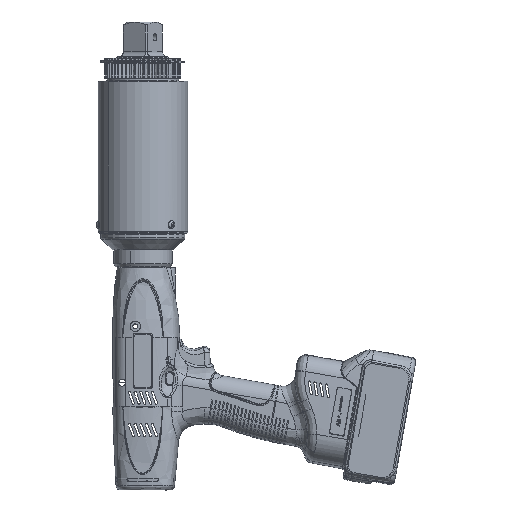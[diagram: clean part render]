
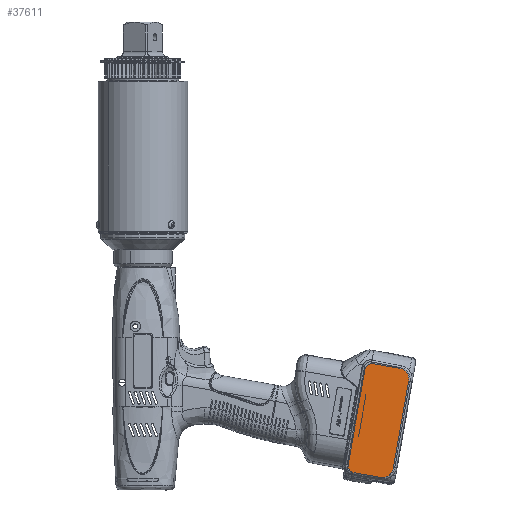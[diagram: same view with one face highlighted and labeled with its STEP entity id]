
A CAD part, left-side view. The second image highlights one B-rep face of the part: STEP entity #37611.
In plain terms, the highlighted planar face has unit normal (-1, 0, 0).
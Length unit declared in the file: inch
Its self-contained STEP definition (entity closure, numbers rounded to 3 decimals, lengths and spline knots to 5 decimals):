
#5292 = EDGE_CURVE ( 'NONE', #86079, #28342, #52400, .T. ) ;
#5631 = ORIENTED_EDGE ( 'NONE', *, *, #35258, .T. ) ;
#6108 = CARTESIAN_POINT ( 'NONE',  ( -1.48, -8.76218, -3.72293 ) ) ;
#6435 = DIRECTION ( 'NONE',  ( 0., -0.174, 0.985 ) ) ;
#8315 = AXIS2_PLACEMENT_3D ( 'NONE', #205731, #42220, #6435 ) ;
#10279 = DIRECTION ( 'NONE',  ( -1., 0., 0. ) ) ;
#11564 = DIRECTION ( 'NONE',  ( 0., 0.174, -0.985 ) ) ;
#11878 = EDGE_CURVE ( 'NONE', #86056, #48771, #204309, .T. ) ;
#13908 = VERTEX_POINT ( 'NONE', #19643 ) ;
#19643 = CARTESIAN_POINT ( 'NONE',  ( -1.48, -7.20979, -7.2865 ) ) ;
#19907 = DIRECTION ( 'NONE',  ( 0., -0.174, 0.985 ) ) ;
#24184 = ORIENTED_EDGE ( 'NONE', *, *, #92044, .T. ) ;
#28342 = VERTEX_POINT ( 'NONE', #202990 ) ;
#28716 = CARTESIAN_POINT ( 'NONE',  ( -1.48, -8.17108, -7.07522 ) ) ;
#30016 = EDGE_CURVE ( 'NONE', #200419, #13908, #53158, .T. ) ;
#32656 = CIRCLE ( 'NONE', #8315, 0.375 ) ;
#33382 = EDGE_LOOP ( 'NONE', ( #202807, #120337, #113052, #119074, #24184, #5631, #152180, #64182 ) ) ;
#35197 = AXIS2_PLACEMENT_3D ( 'NONE', #189921, #61072, #209389 ) ;
#35258 = EDGE_CURVE ( 'NONE', #89031, #200419, #76641, .T. ) ;
#36532 = DIRECTION ( 'NONE',  ( 0., 0.985, 0.174 ) ) ;
#36997 = VECTOR ( 'NONE', #36532, 39.37008 ) ;
#37611 = ADVANCED_FACE ( 'NONE', ( #113192 ), #48232, .F. ) ;
#41191 = EDGE_CURVE ( 'NONE', #172706, #86056, #32656, .T. ) ;
#42220 = DIRECTION ( 'NONE',  ( -1., 0., 0. ) ) ;
#43931 = CARTESIAN_POINT ( 'NONE',  ( -1.48, -7.82259, -3.81111 ) ) ;
#47811 = DIRECTION ( 'NONE',  ( 0., 0.174, -0.985 ) ) ;
#48232 = PLANE ( 'NONE',  #167248 ) ;
#48366 = CARTESIAN_POINT ( 'NONE',  ( -1.48, -7.86601, -3.56491 ) ) ;
#48771 = VERTEX_POINT ( 'NONE', #48366 ) ;
#52400 = CIRCLE ( 'NONE', #35197, 0.375 ) ;
#53158 = CIRCLE ( 'NONE', #198415, 0.25 ) ;
#59132 = CARTESIAN_POINT ( 'NONE',  ( -1.48, -7.57639, -3.7677 ) ) ;
#61072 = DIRECTION ( 'NONE',  ( -1., 0., 0. ) ) ;
#64079 = DIRECTION ( 'NONE',  ( -1., 0., 0. ) ) ;
#64182 = ORIENTED_EDGE ( 'NONE', *, *, #132550, .T. ) ;
#75580 = CARTESIAN_POINT ( 'NONE',  ( -1.48, -7.007, -6.99689 ) ) ;
#76448 = DIRECTION ( 'NONE',  ( 0., -0.174, 0.985 ) ) ;
#76641 = LINE ( 'NONE', #75580, #170145 ) ;
#83400 = CARTESIAN_POINT ( 'NONE',  ( -1.48, -8.10597, -7.44452 ) ) ;
#86056 = VERTEX_POINT ( 'NONE', #114785 ) ;
#86079 = VERTEX_POINT ( 'NONE', #83400 ) ;
#89031 = VERTEX_POINT ( 'NONE', #59132 ) ;
#91291 = LINE ( 'NONE', #207066, #105643 ) ;
#92044 = EDGE_CURVE ( 'NONE', #48771, #89031, #194547, .T. ) ;
#95570 = DIRECTION ( 'NONE',  ( 0., -0.985, -0.174 ) ) ;
#97045 = DIRECTION ( 'NONE',  ( 1., 0., 0. ) ) ;
#100514 = CARTESIAN_POINT ( 'NONE',  ( -1.48, -9.06637, -4.15735 ) ) ;
#101952 = CARTESIAN_POINT ( 'NONE',  ( -1.48, -7.2532, -7.0403 ) ) ;
#105643 = VECTOR ( 'NONE', #95570, 39.37008 ) ;
#113052 = ORIENTED_EDGE ( 'NONE', *, *, #41191, .T. ) ;
#113192 = FACE_OUTER_BOUND ( 'NONE', #33382, .T. ) ;
#114785 = CARTESIAN_POINT ( 'NONE',  ( -1.48, -8.76218, -3.72293 ) ) ;
#118480 = LINE ( 'NONE', #168221, #202964 ) ;
#119074 = ORIENTED_EDGE ( 'NONE', *, *, #11878, .T. ) ;
#120337 = ORIENTED_EDGE ( 'NONE', *, *, #134662, .T. ) ;
#132550 = EDGE_CURVE ( 'NONE', #13908, #86079, #91291, .T. ) ;
#134662 = EDGE_CURVE ( 'NONE', #28342, #172706, #118480, .T. ) ;
#144532 = DIRECTION ( 'NONE',  ( 0., 0.174, -0.985 ) ) ;
#152180 = ORIENTED_EDGE ( 'NONE', *, *, #30016, .T. ) ;
#167248 = AXIS2_PLACEMENT_3D ( 'NONE', #28716, #97045, #144532 ) ;
#168221 = CARTESIAN_POINT ( 'NONE',  ( -1.48, -8.54039, -7.14033 ) ) ;
#170145 = VECTOR ( 'NONE', #11564, 39.37008 ) ;
#172706 = VERTEX_POINT ( 'NONE', #100514 ) ;
#189921 = CARTESIAN_POINT ( 'NONE',  ( -1.48, -8.17108, -7.07522 ) ) ;
#194547 = CIRCLE ( 'NONE', #211850, 0.25 ) ;
#198415 = AXIS2_PLACEMENT_3D ( 'NONE', #101952, #64079, #47811 ) ;
#200419 = VERTEX_POINT ( 'NONE', #202827 ) ;
#202807 = ORIENTED_EDGE ( 'NONE', *, *, #5292, .T. ) ;
#202827 = CARTESIAN_POINT ( 'NONE',  ( -1.48, -7.007, -6.99689 ) ) ;
#202964 = VECTOR ( 'NONE', #19907, 39.37008 ) ;
#202990 = CARTESIAN_POINT ( 'NONE',  ( -1.48, -8.54039, -7.14033 ) ) ;
#204309 = LINE ( 'NONE', #6108, #36997 ) ;
#205731 = CARTESIAN_POINT ( 'NONE',  ( -1.48, -8.69706, -4.09223 ) ) ;
#207066 = CARTESIAN_POINT ( 'NONE',  ( -1.48, -8.10597, -7.44452 ) ) ;
#209389 = DIRECTION ( 'NONE',  ( 0., 0.174, -0.985 ) ) ;
#211850 = AXIS2_PLACEMENT_3D ( 'NONE', #43931, #10279, #76448 ) ;
